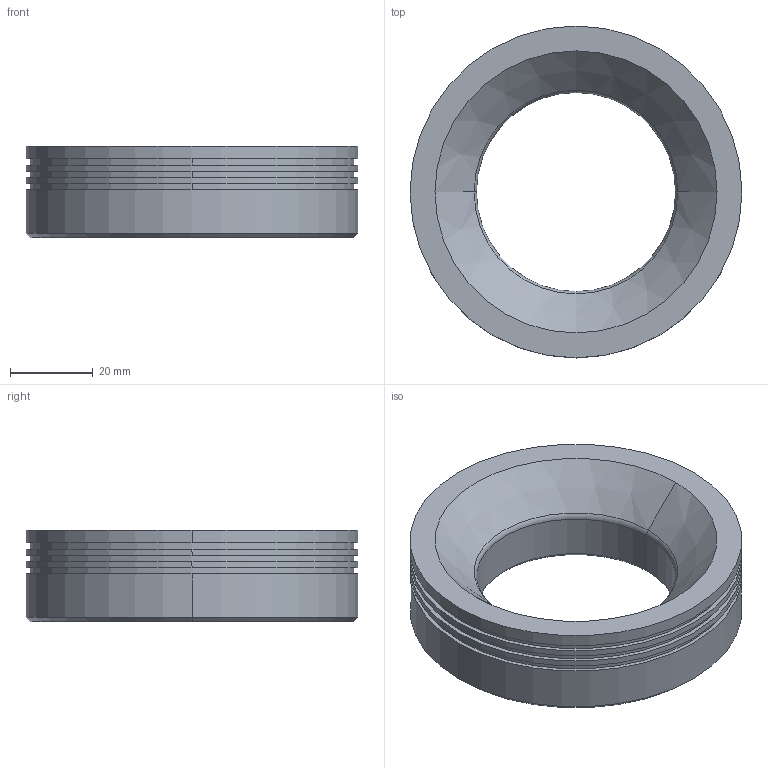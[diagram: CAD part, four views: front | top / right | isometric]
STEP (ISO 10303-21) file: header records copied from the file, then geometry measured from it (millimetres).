
FILE_DESCRIPTION((''),'2;1');
FILE_NAME('DRL7030','2020-03-28T',('ASUS'),(''),'PRO/ENGINEER BY PARAMETRIC TECHNOLOGY CORPORATION, 2008380','PRO/ENGINEER BY PARAMETRIC TECHNOLOGY CORPORATION, 2008380','');
FILE_SCHEMA(('CONFIG_CONTROL_DESIGN'));
Length unit declared in the file: millimetre
Products named in the file (1): DRL7030
Bounding box: 80 x 80 x 22 mm (x, y, z)
Volume: 60693.1 mm3; surface area: 16184.2 mm2
Topology: 1 solids, 5 shells, 68 faces, 152 edges, 92 vertices
Faces by surface type: cylinder 32, cone 22, plane 12, torus 2
Entity records: 1901 total; most frequent: DIRECTION 372, CARTESIAN_POINT 305, ORIENTED_EDGE 272, AXIS2_PLACEMENT_3D 159, EDGE_CURVE 144, VERTEX_POINT 92, CIRCLE 90, EDGE_LOOP 84
